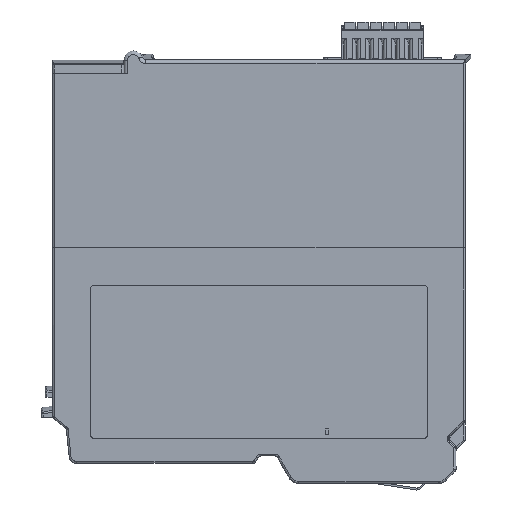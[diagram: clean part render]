
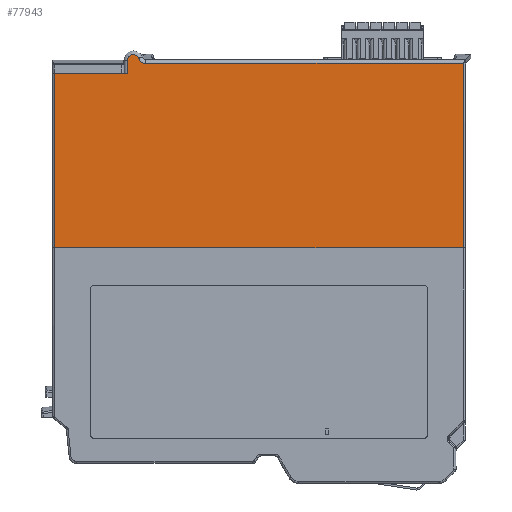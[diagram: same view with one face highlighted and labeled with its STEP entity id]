
A CAD part, left-side view. The second image highlights one B-rep face of the part: STEP entity #77943.
In plain terms, the highlighted planar face has unit normal (-1, 0, 0).
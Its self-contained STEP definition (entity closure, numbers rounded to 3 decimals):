
#3908 = EDGE_LOOP ( 'NONE', ( #113748, #113750, #113751, #113753, #113754, #113755, #113756, #113757 ) ) ;
#4316 = VERTEX_POINT ( 'NONE', #10444 ) ;
#4321 = VERTEX_POINT ( 'NONE', #10451 ) ;
#4323 = VERTEX_POINT ( 'NONE', #10454 ) ;
#4325 = VERTEX_POINT ( 'NONE', #10456 ) ;
#4326 = VERTEX_POINT ( 'NONE', #10457 ) ;
#4327 = VERTEX_POINT ( 'NONE', #10459 ) ;
#4328 = VERTEX_POINT ( 'NONE', #10461 ) ;
#4329 = VERTEX_POINT ( 'NONE', #10463 ) ;
#5181 =( BOUNDED_CURVE ( )  B_SPLINE_CURVE ( 3, ( #19921, #19935, #19938, #19942 ),
 .UNSPECIFIED., .F., .T. ) 
 B_SPLINE_CURVE_WITH_KNOTS ( ( 4, 4 ),
 ( 0., 1. ),
 .UNSPECIFIED. ) 
 CURVE ( )  GEOMETRIC_REPRESENTATION_ITEM ( )  RATIONAL_B_SPLINE_CURVE ( ( 1., 0.449, 0.449, 1. ) ) 
 REPRESENTATION_ITEM ( '' )  );
#10444 = CARTESIAN_POINT ( 'NONE',  ( -44.456, 60.955, -22.5 ) ) ;
#10451 = CARTESIAN_POINT ( 'NONE',  ( -44.456, 36.644, 26.666 ) ) ;
#10454 = CARTESIAN_POINT ( 'NONE',  ( -44.456, 60.955, 24. ) ) ;
#10456 = CARTESIAN_POINT ( 'NONE',  ( -44.456, -48.045, -22.5 ) ) ;
#10457 = CARTESIAN_POINT ( 'NONE',  ( -44.456, 41.455, 24. ) ) ;
#10459 = CARTESIAN_POINT ( 'NONE',  ( -44.456, 41.455, 27.5 ) ) ;
#10461 = CARTESIAN_POINT ( 'NONE',  ( -44.456, 38.545, 28.012 ) ) ;
#10463 = CARTESIAN_POINT ( 'NONE',  ( -44.456, -48.045, 26.666 ) ) ;
#11210 = B_SPLINE_CURVE_WITH_KNOTS ( 'NONE', 3,
 ( #19947, #19952, #19965, #19967, #19970, #19973 ),
 .UNSPECIFIED., .F., .F.,
 ( 4, 2, 4 ),
 ( 0., 0.5, 1. ),
 .UNSPECIFIED. ) ;
#14592 = VECTOR ( 'NONE', #19834, 1000. ) ;
#14613 = VECTOR ( 'NONE', #19885, 1000. ) ;
#14622 = VECTOR ( 'NONE', #19991, 1000. ) ;
#14628 = VECTOR ( 'NONE', #20052, 1000. ) ;
#14643 = VECTOR ( 'NONE', #20210, 1000. ) ;
#14644 = VECTOR ( 'NONE', #20218, 1000. ) ;
#19810 = CARTESIAN_POINT ( 'NONE',  ( -44.456, 60.955, 27.5 ) ) ;
#19824 = LINE ( 'NONE', #19810, #14592 ) ;
#19834 = DIRECTION ( 'NONE',  ( 0., 0., 1. ) ) ;
#19838 = LINE ( 'NONE', #19841, #14613 ) ;
#19841 = CARTESIAN_POINT ( 'NONE',  ( -44.456, 41.455, 27.5 ) ) ;
#19885 = DIRECTION ( 'NONE',  ( 0., 0., 1. ) ) ;
#19921 = CARTESIAN_POINT ( 'NONE',  ( -44.456, 41.455, 27.5 ) ) ;
#19935 = CARTESIAN_POINT ( 'NONE',  ( -44.456, 41.455, 29.694 ) ) ;
#19938 = CARTESIAN_POINT ( 'NONE',  ( -44.456, 39.294, 30.074 ) ) ;
#19942 = CARTESIAN_POINT ( 'NONE',  ( -44.456, 38.545, 28.012 ) ) ;
#19947 = CARTESIAN_POINT ( 'NONE',  ( -44.456, 38.545, 28.012 ) ) ;
#19952 = CARTESIAN_POINT ( 'NONE',  ( -44.456, 38.404, 27.625 ) ) ;
#19965 = CARTESIAN_POINT ( 'NONE',  ( -44.456, 38.143, 27.28 ) ) ;
#19967 = CARTESIAN_POINT ( 'NONE',  ( -44.456, 37.468, 26.799 ) ) ;
#19970 = CARTESIAN_POINT ( 'NONE',  ( -44.456, 37.059, 26.666 ) ) ;
#19973 = CARTESIAN_POINT ( 'NONE',  ( -44.456, 36.644, 26.666 ) ) ;
#19983 = LINE ( 'NONE', #19988, #14622 ) ;
#19988 = CARTESIAN_POINT ( 'NONE',  ( -44.456, -48.545, 26.666 ) ) ;
#19991 = DIRECTION ( 'NONE',  ( 0., -1., 0. ) ) ;
#20044 = LINE ( 'NONE', #20050, #14628 ) ;
#20050 = CARTESIAN_POINT ( 'NONE',  ( -44.456, -48.045, 27.5 ) ) ;
#20052 = DIRECTION ( 'NONE',  ( 0., 0., -1. ) ) ;
#20201 = LINE ( 'NONE', #20206, #14643 ) ;
#20206 = CARTESIAN_POINT ( 'NONE',  ( -44.456, 42.455, 24. ) ) ;
#20210 = DIRECTION ( 'NONE',  ( 0., -1., 0. ) ) ;
#20212 = LINE ( 'NONE', #20215, #14644 ) ;
#20215 = CARTESIAN_POINT ( 'NONE',  ( -44.456, 61.813, -22.5 ) ) ;
#20218 = DIRECTION ( 'NONE',  ( 0., -1., 0. ) ) ;
#49359 = PLANE ( 'NONE',  #51697 ) ;
#49372 = FACE_OUTER_BOUND ( 'NONE', #3908, .T. ) ;
#49382 = CARTESIAN_POINT ( 'NONE',  ( -44.456, -48.545, 27.5 ) ) ;
#49383 = DIRECTION ( 'NONE',  ( 1., 0., 0. ) ) ;
#49384 = DIRECTION ( 'NONE',  ( 0., 0., -1. ) ) ;
#51697 = AXIS2_PLACEMENT_3D ( 'NONE', #49382, #49383, #49384 ) ;
#77943 = ADVANCED_FACE ( 'NONE', ( #49372 ), #49359, .F. ) ;
#109897 = EDGE_CURVE ( 'NONE', #4316, #4323, #19824, .T. ) ;
#109908 = EDGE_CURVE ( 'NONE', #4326, #4327, #19838, .T. ) ;
#109918 = EDGE_CURVE ( 'NONE', #4327, #4328, #5181, .T. ) ;
#109922 = EDGE_CURVE ( 'NONE', #4328, #4321, #11210, .T. ) ;
#109927 = EDGE_CURVE ( 'NONE', #4321, #4329, #19983, .T. ) ;
#109936 = EDGE_CURVE ( 'NONE', #4329, #4325, #20044, .T. ) ;
#109963 = EDGE_CURVE ( 'NONE', #4323, #4326, #20201, .T. ) ;
#109964 = EDGE_CURVE ( 'NONE', #4316, #4325, #20212, .T. ) ;
#113748 = ORIENTED_EDGE ( 'NONE', *, *, #109927, .F. ) ;
#113750 = ORIENTED_EDGE ( 'NONE', *, *, #109922, .F. ) ;
#113751 = ORIENTED_EDGE ( 'NONE', *, *, #109918, .F. ) ;
#113753 = ORIENTED_EDGE ( 'NONE', *, *, #109908, .F. ) ;
#113754 = ORIENTED_EDGE ( 'NONE', *, *, #109963, .F. ) ;
#113755 = ORIENTED_EDGE ( 'NONE', *, *, #109897, .F. ) ;
#113756 = ORIENTED_EDGE ( 'NONE', *, *, #109964, .T. ) ;
#113757 = ORIENTED_EDGE ( 'NONE', *, *, #109936, .F. ) ;
